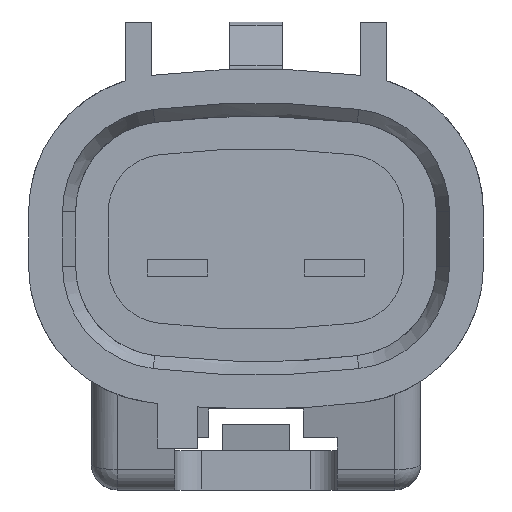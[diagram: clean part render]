
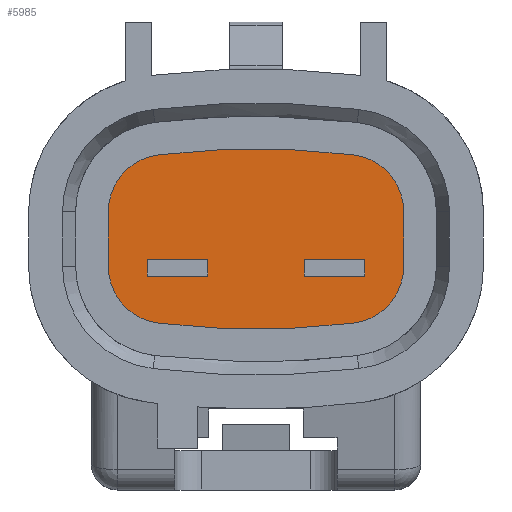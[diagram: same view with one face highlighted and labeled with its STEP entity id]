
A CAD part, left-side view. The second image highlights one B-rep face of the part: STEP entity #5985.
In plain terms, the highlighted planar face has unit normal (-1, 0, 0).
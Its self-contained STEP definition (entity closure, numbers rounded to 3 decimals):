
#5719=CARTESIAN_POINT('Vertex',(0.,-2.65,0.063)) ;
#5726=CARTESIAN_POINT('Vertex',(0.,-2.65,2.137)) ;
#5729=CARTESIAN_POINT('Line Origine',(0.,-2.65,1.1)) ;
#5750=CARTESIAN_POINT('Vertex',(0.,-0.721,-2.12)) ;
#5753=CARTESIAN_POINT('Axis2P3D Location',(0.,-0.45,0.063)) ;
#5774=CARTESIAN_POINT('Vertex',(0.,6.721,-2.12)) ;
#5777=CARTESIAN_POINT('Axis2P3D Location',(0.,3.,27.85)) ;
#5798=CARTESIAN_POINT('Vertex',(0.,8.65,0.063)) ;
#5801=CARTESIAN_POINT('Axis2P3D Location',(0.,6.45,0.063)) ;
#5822=CARTESIAN_POINT('Vertex',(0.,8.65,2.137)) ;
#5825=CARTESIAN_POINT('Line Origine',(0.,8.65,1.1)) ;
#5846=CARTESIAN_POINT('Vertex',(0.,6.721,4.32)) ;
#5849=CARTESIAN_POINT('Axis2P3D Location',(0.,6.45,2.137)) ;
#5870=CARTESIAN_POINT('Vertex',(0.,-0.721,4.32)) ;
#5873=CARTESIAN_POINT('Axis2P3D Location',(0.,3.,-25.65)) ;
#5890=CARTESIAN_POINT('Axis2P3D Location',(0.,-0.45,2.137)) ;
#5902=CARTESIAN_POINT('Axis2P3D Location',(0.,0.,0.)) ;
#5917=CARTESIAN_POINT('Line Origine',(0.,-1.15,0.)) ;
#5921=CARTESIAN_POINT('Vertex',(0.,-1.15,-0.32)) ;
#5923=CARTESIAN_POINT('Vertex',(0.,-1.15,0.32)) ;
#5926=CARTESIAN_POINT('Line Origine',(0.,0.,-0.32)) ;
#5930=CARTESIAN_POINT('Vertex',(0.,1.15,-0.32)) ;
#5933=CARTESIAN_POINT('Line Origine',(0.,1.15,0.)) ;
#5937=CARTESIAN_POINT('Vertex',(0.,1.15,0.32)) ;
#5940=CARTESIAN_POINT('Line Origine',(0.,0.,0.32)) ;
#5951=CARTESIAN_POINT('Line Origine',(0.,4.85,0.)) ;
#5955=CARTESIAN_POINT('Vertex',(0.,4.85,-0.32)) ;
#5957=CARTESIAN_POINT('Vertex',(0.,4.85,0.32)) ;
#5960=CARTESIAN_POINT('Line Origine',(0.,6.,-0.32)) ;
#5964=CARTESIAN_POINT('Vertex',(0.,7.15,-0.32)) ;
#5967=CARTESIAN_POINT('Line Origine',(0.,7.15,0.)) ;
#5971=CARTESIAN_POINT('Vertex',(0.,7.15,0.32)) ;
#5974=CARTESIAN_POINT('Line Origine',(0.,6.,0.32)) ;
#5730=DIRECTION('Vector Direction',(0.,0.,1.)) ;
#5754=DIRECTION('Axis2P3D Direction',(-1.,0.,0.)) ;
#5778=DIRECTION('Axis2P3D Direction',(-1.,0.,0.)) ;
#5802=DIRECTION('Axis2P3D Direction',(-1.,0.,0.)) ;
#5826=DIRECTION('Vector Direction',(0.,0.,-1.)) ;
#5850=DIRECTION('Axis2P3D Direction',(-1.,0.,0.)) ;
#5874=DIRECTION('Axis2P3D Direction',(-1.,0.,0.)) ;
#5891=DIRECTION('Axis2P3D Direction',(-1.,0.,0.)) ;
#5903=DIRECTION('Axis2P3D Direction',(-1.,0.,0.)) ;
#5904=DIRECTION('Axis2P3D XDirection',(0.,-1.,0.)) ;
#5918=DIRECTION('Vector Direction',(0.,0.,1.)) ;
#5927=DIRECTION('Vector Direction',(0.,1.,0.)) ;
#5934=DIRECTION('Vector Direction',(0.,0.,-1.)) ;
#5941=DIRECTION('Vector Direction',(0.,-1.,0.)) ;
#5952=DIRECTION('Vector Direction',(0.,0.,1.)) ;
#5961=DIRECTION('Vector Direction',(0.,1.,0.)) ;
#5968=DIRECTION('Vector Direction',(0.,0.,-1.)) ;
#5975=DIRECTION('Vector Direction',(0.,-1.,0.)) ;
#5755=AXIS2_PLACEMENT_3D('Circle Axis2P3D',#5753,#5754,$) ;
#5779=AXIS2_PLACEMENT_3D('Circle Axis2P3D',#5777,#5778,$) ;
#5803=AXIS2_PLACEMENT_3D('Circle Axis2P3D',#5801,#5802,$) ;
#5851=AXIS2_PLACEMENT_3D('Circle Axis2P3D',#5849,#5850,$) ;
#5875=AXIS2_PLACEMENT_3D('Circle Axis2P3D',#5873,#5874,$) ;
#5892=AXIS2_PLACEMENT_3D('Circle Axis2P3D',#5890,#5891,$) ;
#5905=AXIS2_PLACEMENT_3D('Plane Axis2P3D',#5902,#5903,#5904) ;
#5908=ORIENTED_EDGE('',*,*,#5894,.T.) ;
#5909=ORIENTED_EDGE('',*,*,#5877,.T.) ;
#5910=ORIENTED_EDGE('',*,*,#5853,.T.) ;
#5911=ORIENTED_EDGE('',*,*,#5829,.T.) ;
#5912=ORIENTED_EDGE('',*,*,#5805,.T.) ;
#5913=ORIENTED_EDGE('',*,*,#5781,.T.) ;
#5914=ORIENTED_EDGE('',*,*,#5757,.T.) ;
#5915=ORIENTED_EDGE('',*,*,#5733,.T.) ;
#5946=ORIENTED_EDGE('',*,*,#5925,.F.) ;
#5947=ORIENTED_EDGE('',*,*,#5932,.F.) ;
#5948=ORIENTED_EDGE('',*,*,#5939,.F.) ;
#5949=ORIENTED_EDGE('',*,*,#5944,.F.) ;
#5980=ORIENTED_EDGE('',*,*,#5959,.F.) ;
#5981=ORIENTED_EDGE('',*,*,#5966,.F.) ;
#5982=ORIENTED_EDGE('',*,*,#5973,.F.) ;
#5983=ORIENTED_EDGE('',*,*,#5978,.F.) ;
#5950=FACE_BOUND('',#5945,.T.) ;
#5984=FACE_BOUND('',#5979,.T.) ;
#5731=VECTOR('Line Direction',#5730,1.) ;
#5827=VECTOR('Line Direction',#5826,1.) ;
#5919=VECTOR('Line Direction',#5918,1.) ;
#5928=VECTOR('Line Direction',#5927,1.) ;
#5935=VECTOR('Line Direction',#5934,1.) ;
#5942=VECTOR('Line Direction',#5941,1.) ;
#5953=VECTOR('Line Direction',#5952,1.) ;
#5962=VECTOR('Line Direction',#5961,1.) ;
#5969=VECTOR('Line Direction',#5968,1.) ;
#5976=VECTOR('Line Direction',#5975,1.) ;
#5985=ADVANCED_FACE('\X2\FF8AFF9FFF70FF82\X0\ \X2\FF8EFF9EFF83FF9EFF68FF70\X0\',(#5916,#5950,#5984),#5906,.T.) ;
#5756=CIRCLE('generated circle',#5755,2.2) ;
#5780=CIRCLE('generated circle',#5779,30.2) ;
#5804=CIRCLE('generated circle',#5803,2.2) ;
#5852=CIRCLE('generated circle',#5851,2.2) ;
#5876=CIRCLE('generated circle',#5875,30.2) ;
#5893=CIRCLE('generated circle',#5892,2.2) ;
#5733=EDGE_CURVE('',#5720,#5727,#5732,.T.) ;
#5757=EDGE_CURVE('',#5751,#5720,#5756,.T.) ;
#5781=EDGE_CURVE('',#5775,#5751,#5780,.T.) ;
#5805=EDGE_CURVE('',#5799,#5775,#5804,.T.) ;
#5829=EDGE_CURVE('',#5823,#5799,#5828,.T.) ;
#5853=EDGE_CURVE('',#5847,#5823,#5852,.T.) ;
#5877=EDGE_CURVE('',#5871,#5847,#5876,.T.) ;
#5894=EDGE_CURVE('',#5727,#5871,#5893,.T.) ;
#5925=EDGE_CURVE('',#5922,#5924,#5920,.T.) ;
#5932=EDGE_CURVE('',#5931,#5922,#5929,.F.) ;
#5939=EDGE_CURVE('',#5938,#5931,#5936,.T.) ;
#5944=EDGE_CURVE('',#5924,#5938,#5943,.F.) ;
#5959=EDGE_CURVE('',#5956,#5958,#5954,.T.) ;
#5966=EDGE_CURVE('',#5965,#5956,#5963,.F.) ;
#5973=EDGE_CURVE('',#5972,#5965,#5970,.T.) ;
#5978=EDGE_CURVE('',#5958,#5972,#5977,.F.) ;
#5907=EDGE_LOOP('',(#5908,#5909,#5910,#5911,#5912,#5913,#5914,#5915)) ;
#5945=EDGE_LOOP('',(#5946,#5947,#5948,#5949)) ;
#5979=EDGE_LOOP('',(#5980,#5981,#5982,#5983)) ;
#5916=FACE_OUTER_BOUND('',#5907,.T.) ;
#5732=LINE('Line',#5729,#5731) ;
#5828=LINE('Line',#5825,#5827) ;
#5920=LINE('Line',#5917,#5919) ;
#5929=LINE('Line',#5926,#5928) ;
#5936=LINE('Line',#5933,#5935) ;
#5943=LINE('Line',#5940,#5942) ;
#5954=LINE('Line',#5951,#5953) ;
#5963=LINE('Line',#5960,#5962) ;
#5970=LINE('Line',#5967,#5969) ;
#5977=LINE('Line',#5974,#5976) ;
#5906=PLANE('',#5905) ;
#5720=VERTEX_POINT('',#5719) ;
#5727=VERTEX_POINT('',#5726) ;
#5751=VERTEX_POINT('',#5750) ;
#5775=VERTEX_POINT('',#5774) ;
#5799=VERTEX_POINT('',#5798) ;
#5823=VERTEX_POINT('',#5822) ;
#5847=VERTEX_POINT('',#5846) ;
#5871=VERTEX_POINT('',#5870) ;
#5922=VERTEX_POINT('',#5921) ;
#5924=VERTEX_POINT('',#5923) ;
#5931=VERTEX_POINT('',#5930) ;
#5938=VERTEX_POINT('',#5937) ;
#5956=VERTEX_POINT('',#5955) ;
#5958=VERTEX_POINT('',#5957) ;
#5965=VERTEX_POINT('',#5964) ;
#5972=VERTEX_POINT('',#5971) ;
